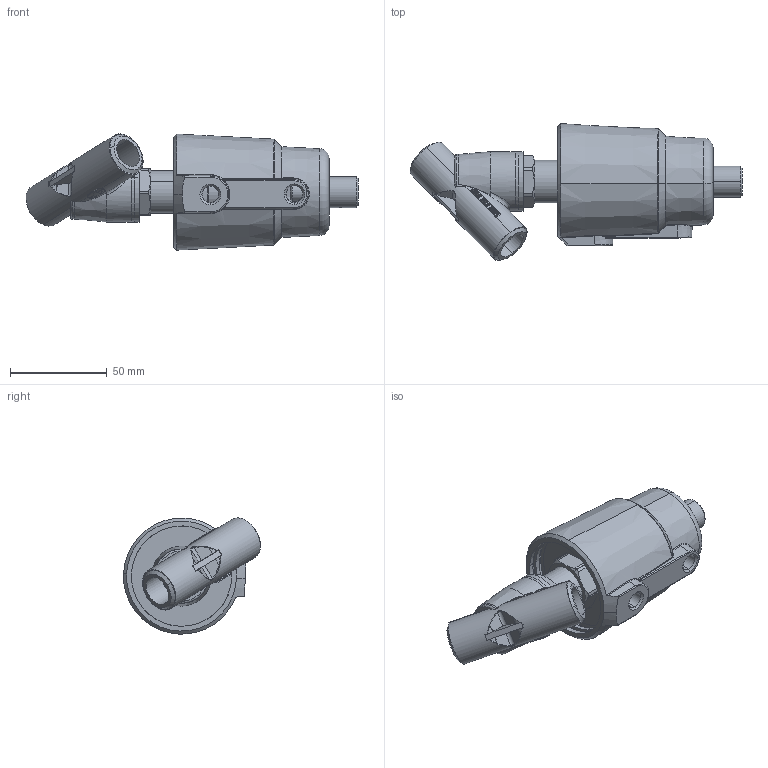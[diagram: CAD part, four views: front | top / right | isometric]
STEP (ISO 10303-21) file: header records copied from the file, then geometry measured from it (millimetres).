
FILE_DESCRIPTION (( 'STEP AP203' ), '1' );
FILE_NAME ('JF10050115WH.STEP', '2019-03-21T02:09:44', ( 'User' ), ( 'china' ), 'SwSTEP 2.0', 'SolidWorks 2017', '' );
FILE_SCHEMA (( 'CONFIG_CONTROL_DESIGN' ));
Length unit declared in the file: millimetre
Products named in the file (22): 6褒蹟恇; 錨璃1; 5015蟀諉; 錨璃弝敦; 500002000傷裔; JF10050115WH; 50003活塞; 502003000概裝; 3502概郋; 3502概郋躇猾菜; EJF501501H00概极
Assembly tree (11 placements, depth 2):
  6褒蹟恇
  5015蟀諉
  500002000傷裔
  JF10050115WH
    502003000概裝
    3502概郋
    3502概郋躇猾菜  x2
    EJF501501H00概极
    6褒蹟恇
    5015蟀諉
    500002000傷裔
    50003活塞
    錨璃1
    錨璃弝敦
  50003活塞
Bounding box: 171.98 x 70.97 x 60.24 mm (x, y, z)
Volume: 124631.3 mm3; surface area: 78172.3 mm2
Topology: 11 solids, 11 shells, 746 faces, 1896 edges, 1215 vertices
Faces by surface type: bspline 275, cylinder 182, plane 163, cone 87, torus 36, sphere 3
Entity records: 41058 total; most frequent: CARTESIAN_POINT 23554, ORIENTED_EDGE 3740, DIRECTION 2387, EDGE_CURVE 1870, VERTEX_POINT 1201, AXIS2_PLACEMENT_3D 987, B_SPLINE_CURVE_WITH_KNOTS 898, EDGE_LOOP 821
